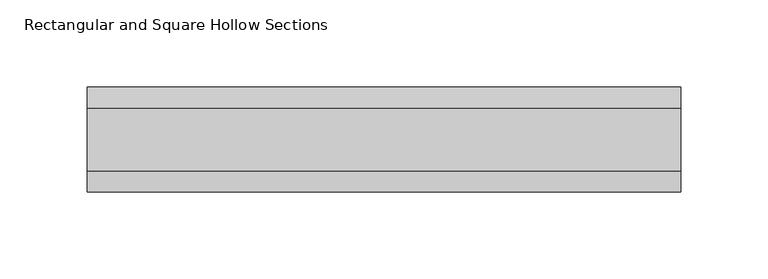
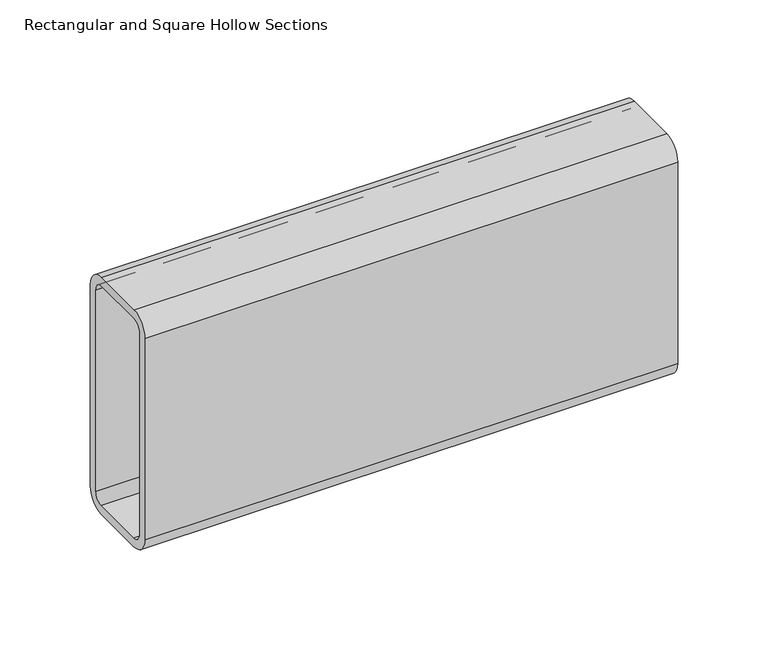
"""IFC4 building model written with IfcOpenShell, lengths in millimetres: beam geometry, Rectangular and Square Hollow Sections : TREC160x60x6."""

from ifc_helpers import new_model, si_unit, point, frame, frame_2d, origin, place, context, project, spatial, polyline, circle_curve, trimmed, segment, composite_curve, outline, extrude, source, transform, mapped, element, save


def rectangular_and_square_hollow_sections_cc2f10b7(model_context):
    return source(origin(), model_context, "Body", "SweptSolid", [
        extrude(outline(composite_curve([segment(polyline([(30.0, 68.0), (30.0, -68.0)]), True, "CONTINUOUS"), segment(trimmed(circle_curve(frame_2d((18.0, -68.0)), 12.0), [point((30.0, -68.0))], [point((18.0, -80.0))], False, "CARTESIAN"), True, "CONTINUOUS"), segment(polyline([(18.0, -80.0), (-18.0, -80.0)]), True, "CONTINUOUS"), segment(trimmed(circle_curve(frame_2d((-18.0, -68.0)), 12.0), [point((-18.0, -80.0))], [point((-30.0, -68.0))], False, "CARTESIAN"), True, "CONTINUOUS"), segment(polyline([(-30.0, -68.0), (-30.0, 68.0)]), True, "CONTINUOUS"), segment(trimmed(circle_curve(frame_2d((-18.0, 68.0)), 12.0), [point((-30.0, 68.0))], [point((-18.0, 80.0))], False, "CARTESIAN"), True, "CONTINUOUS"), segment(polyline([(-18.0, 80.0), (18.0, 80.0)]), True, "CONTINUOUS"), segment(trimmed(circle_curve(frame_2d((18.0, 68.0)), 12.0), [point((18.0, 80.0))], [point((30.0, 68.0))], False, "CARTESIAN"), True, "CONTINUOUS")], self_intersect=False), holes=[composite_curve([segment(trimmed(circle_curve(frame_2d((-18.0, 68.0)), 6.0), [point((-18.0, 74.0))], [point((-24.0, 68.0))], True, "CARTESIAN"), True, "CONTINUOUS"), segment(polyline([(-24.0, 68.0), (-24.0, -68.0)]), True, "CONTINUOUS"), segment(trimmed(circle_curve(frame_2d((-18.0, -68.0)), 6.0), [point((-24.0, -68.0))], [point((-18.0, -74.0))], True, "CARTESIAN"), True, "CONTINUOUS"), segment(polyline([(-18.0, -74.0), (18.0, -74.0)]), True, "CONTINUOUS"), segment(trimmed(circle_curve(frame_2d((18.0, -68.0)), 6.0), [point((18.0, -74.0))], [point((24.0, -68.0))], True, "CARTESIAN"), True, "CONTINUOUS"), segment(polyline([(24.0, -68.0), (24.0, 68.0)]), True, "CONTINUOUS"), segment(trimmed(circle_curve(frame_2d((18.0, 68.0)), 6.0), [point((24.0, 68.0))], [point((18.0, 74.0))], True, "CARTESIAN"), True, "CONTINUOUS"), segment(polyline([(18.0, 74.0), (-18.0, 74.0)]), True, "CONTINUOUS")], self_intersect=False)]), frame((-170.0, 0.0, 0.0), z_axis=(1.0, 0.0, 0.0), x_axis=(0.0, 1.0, 0.0)), (0.0, 0.0, 1.0), 340.0),
    ])


if __name__ == "__main__":
    model = new_model("IFC4")
    model_context = context("Model", 3, world=origin())
    ifc_project = project(units=[si_unit("LENGTHUNIT", "METRE", prefix="MILLI")], contexts=[model_context])
    site = spatial("IfcSite", under=ifc_project)
    building = spatial("IfcBuilding", under=site)
    placement = place(None, origin())
    rectangular_and_square_hollow_sections_shape = rectangular_and_square_hollow_sections_cc2f10b7(model_context)
    element("IfcBeam", 1, ObjectType="Rectangular and Square Hollow Sections : TREC160x60x6", at=placement, inside=building, context=model_context, shape_type="MappedRepresentation", body=[
        mapped(rectangular_and_square_hollow_sections_shape, transform((0.0, 0.0, 0.0), x_axis=(1.0, 0.0, 0.0), y_axis=(0.0, 1.0, 0.0), z_axis=(0.0, 0.0, 1.0))),
    ])
    save(model, "model.ifc")
